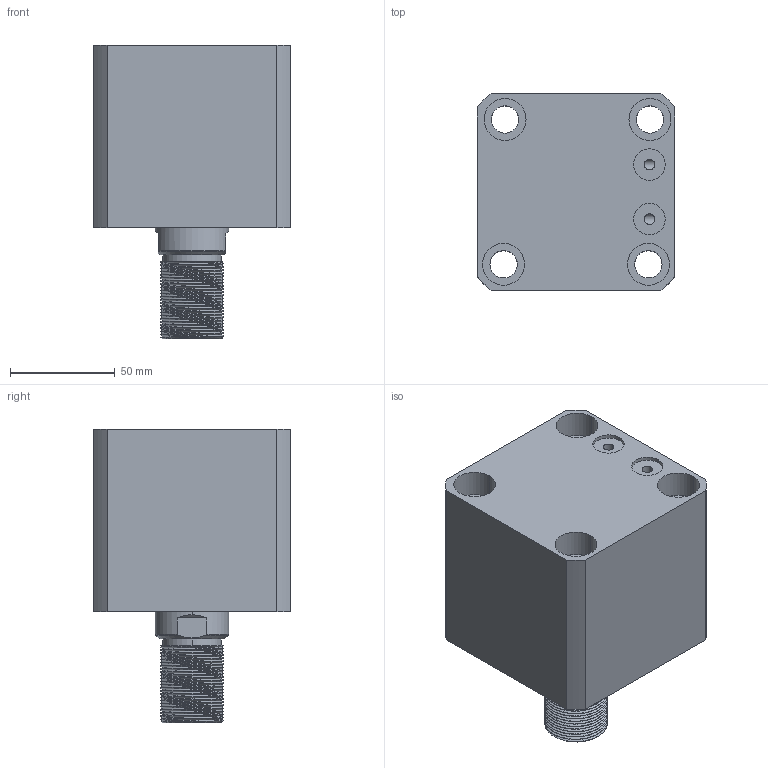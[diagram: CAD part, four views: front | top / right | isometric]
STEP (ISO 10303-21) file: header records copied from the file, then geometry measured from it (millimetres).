
FILE_DESCRIPTION (( 'STEP AP214' ), '1' );
FILE_NAME ('chtb-sdmb63x20w_asm.STEP', '2018-05-18T11:00:40', ( 'Windows' ), ( 'Microsoft' ), 'SwSTEP 2.0', 'SolidWorks 2015', '' );
FILE_SCHEMA (( 'AUTOMOTIVE_DESIGN' ));
Length unit declared in the file: millimetre
Products named in the file (4): CHTB-SDMB63X20NBT; CHTB63X20WHSG; CHTB-63QG; chtb-sdmb63x20w_asm
Assembly tree (3 placements, depth 2):
  chtb-sdmb63x20w_asm
    CHTB-63QG
    CHTB63X20WHSG
    CHTB-SDMB63X20NBT
Bounding box: 94 x 94 x 140 mm (x, y, z)
Volume: 690858.3 mm3; surface area: 124669 mm2
Topology: 3 solids, 3 shells, 218 faces, 628 edges, 427 vertices
Faces by surface type: cylinder 156, plane 33, bspline 14, cone 9, torus 6
Entity records: 22278 total; most frequent: CARTESIAN_POINT 17042, ORIENTED_EDGE 1248, DIRECTION 869, EDGE_CURVE 624, VERTEX_POINT 427, AXIS2_PLACEMENT_3D 339, EDGE_LOOP 251, ADVANCED_FACE 218
